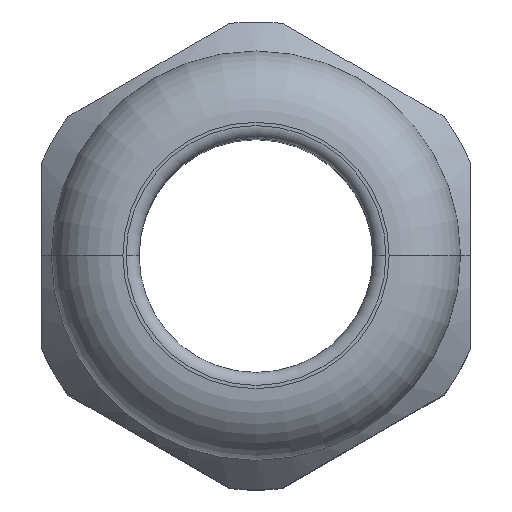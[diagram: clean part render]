
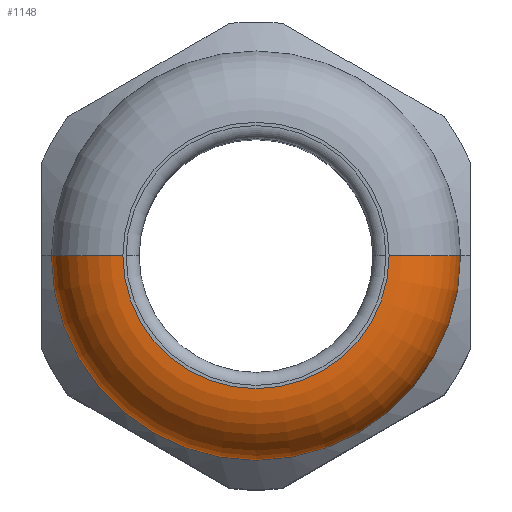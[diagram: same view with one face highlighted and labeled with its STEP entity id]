
A CAD part, top view. The second image highlights one B-rep face of the part: STEP entity #1148.
In plain terms, the highlighted toroidal (fillet/blend) face has major radius 10.25 mm and minor radius 5.5 mm.
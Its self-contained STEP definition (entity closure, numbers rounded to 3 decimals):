
#512 = VERTEX_POINT ( 'NONE', #1692 ) ;
#550 = VERTEX_POINT ( 'NONE', #1938 ) ;
#552 = EDGE_CURVE ( 'NONE', #512, #550, #1937, .T. ) ;
#578 = EDGE_CURVE ( 'NONE', #617, #579, #1905, .T. ) ;
#579 = VERTEX_POINT ( 'NONE', #1900 ) ;
#617 = VERTEX_POINT ( 'NONE', #2174 ) ;
#740 = EDGE_LOOP ( 'NONE', ( #1149, #1092, #1094, #1095 ) ) ;
#908 = EDGE_CURVE ( 'NONE', #579, #550, #2646, .T. ) ;
#1092 = ORIENTED_EDGE ( 'NONE', *, *, #1093, .T. ) ;
#1093 = EDGE_CURVE ( 'NONE', #617, #512, #2501, .T. ) ;
#1094 = ORIENTED_EDGE ( 'NONE', *, *, #552, .T. ) ;
#1095 = ORIENTED_EDGE ( 'NONE', *, *, #908, .F. ) ;
#1148 = ADVANCED_FACE ( 'NONE', ( #2496 ), #2495, .T. ) ;
#1149 = ORIENTED_EDGE ( 'NONE', *, *, #578, .F. ) ;
#1692 = CARTESIAN_POINT ( 'NONE',  ( -10.25, 0., 51.5 ) ) ;
#1900 = CARTESIAN_POINT ( 'NONE',  ( 15.75, 0., 46. ) ) ;
#1901 = DIRECTION ( 'NONE',  ( -1., 0., 0. ) ) ;
#1902 = DIRECTION ( 'NONE',  ( 0., 1., 0. ) ) ;
#1903 = CARTESIAN_POINT ( 'NONE',  ( 10.25, 0., 46. ) ) ;
#1904 = AXIS2_PLACEMENT_3D ( 'NONE', #1903, #1902, #1901 ) ;
#1905 = CIRCLE ( 'NONE', #1904, 5.5 ) ;
#1933 = DIRECTION ( 'NONE',  ( 0., 0., -1. ) ) ;
#1934 = DIRECTION ( 'NONE',  ( 0., -1., 0. ) ) ;
#1935 = CARTESIAN_POINT ( 'NONE',  ( -10.25, 0., 46. ) ) ;
#1936 = AXIS2_PLACEMENT_3D ( 'NONE', #1935, #1934, #1933 ) ;
#1937 = CIRCLE ( 'NONE', #1936, 5.5 ) ;
#1938 = CARTESIAN_POINT ( 'NONE',  ( -15.75, 0., 46. ) ) ;
#2174 = CARTESIAN_POINT ( 'NONE',  ( 10.25, 0., 51.5 ) ) ;
#2491 = DIRECTION ( 'NONE',  ( -1., 0., 0. ) ) ;
#2492 = DIRECTION ( 'NONE',  ( 0., 0., -1. ) ) ;
#2493 = CARTESIAN_POINT ( 'NONE',  ( 0., 0., 46. ) ) ;
#2494 = AXIS2_PLACEMENT_3D ( 'NONE', #2493, #2492, #2491 ) ;
#2495 = TOROIDAL_SURFACE ( 'NONE', #2494, 10.25, 5.5 ) ;
#2496 = FACE_OUTER_BOUND ( 'NONE', #740, .T. ) ;
#2497 = DIRECTION ( 'NONE',  ( -1., 0., 0. ) ) ;
#2498 = DIRECTION ( 'NONE',  ( 0., 0., -1. ) ) ;
#2499 = CARTESIAN_POINT ( 'NONE',  ( 0., 0., 51.5 ) ) ;
#2500 = AXIS2_PLACEMENT_3D ( 'NONE', #2499, #2498, #2497 ) ;
#2501 = CIRCLE ( 'NONE', #2500, 10.25 ) ;
#2642 = DIRECTION ( 'NONE',  ( -1., 0., 0. ) ) ;
#2643 = DIRECTION ( 'NONE',  ( 0., 0., -1. ) ) ;
#2644 = CARTESIAN_POINT ( 'NONE',  ( 0., 0., 46. ) ) ;
#2645 = AXIS2_PLACEMENT_3D ( 'NONE', #2644, #2643, #2642 ) ;
#2646 = CIRCLE ( 'NONE', #2645, 15.75 ) ;
